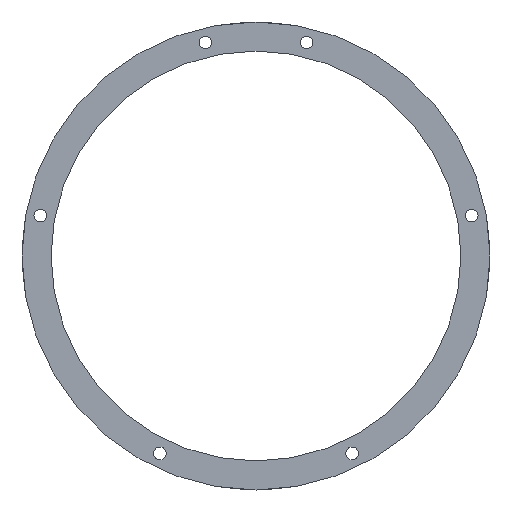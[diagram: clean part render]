
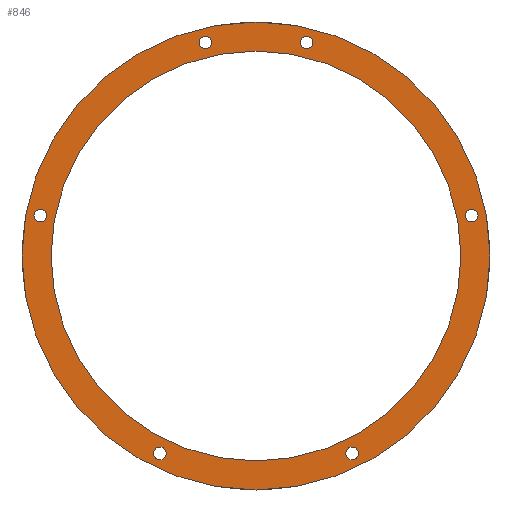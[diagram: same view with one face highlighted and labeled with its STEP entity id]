
A CAD part, left-side view. The second image highlights one B-rep face of the part: STEP entity #846.
In plain terms, the highlighted planar face has unit normal (-1, 0, 0).
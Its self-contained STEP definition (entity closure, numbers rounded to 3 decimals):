
#21 = EDGE_CURVE('',#22,#22,#24,.T.);
#22 = VERTEX_POINT('',#23);
#23 = CARTESIAN_POINT('',(0.,46.25,
    92.5));
#24 = SURFACE_CURVE('',#25,(#30,#42),.PCURVE_S1.);
#25 = CIRCLE('',#26,46.25);
#26 = AXIS2_PLACEMENT_3D('',#27,#28,#29);
#27 = CARTESIAN_POINT('',(0.,46.25,
    46.25));
#28 = DIRECTION('',(1.,0.,0.));
#29 = DIRECTION('',(-0.,0.,1.));
#30 = PCURVE('',#31,#36);
#31 = CYLINDRICAL_SURFACE('',#32,46.25);
#32 = AXIS2_PLACEMENT_3D('',#33,#34,#35);
#33 = CARTESIAN_POINT('',(0.,46.25,
    46.25));
#34 = DIRECTION('',(1.,0.,0.));
#35 = DIRECTION('',(-0.,0.,1.));
#36 = DEFINITIONAL_REPRESENTATION('',(#37),#41);
#37 = LINE('',#38,#39);
#38 = CARTESIAN_POINT('',(0.,0.));
#39 = VECTOR('',#40,1.);
#40 = DIRECTION('',(1.,0.));
#41 = ( GEOMETRIC_REPRESENTATION_CONTEXT(2) 
PARAMETRIC_REPRESENTATION_CONTEXT() REPRESENTATION_CONTEXT('2D SPACE',''
  ) );
#42 = PCURVE('',#43,#48);
#43 = PLANE('',#44);
#44 = AXIS2_PLACEMENT_3D('',#45,#46,#47);
#45 = CARTESIAN_POINT('',(0.,46.25,
    46.25));
#46 = DIRECTION('',(1.,0.,0.));
#47 = DIRECTION('',(-0.,0.,1.));
#48 = DEFINITIONAL_REPRESENTATION('',(#49),#53);
#49 = CIRCLE('',#50,46.25);
#50 = AXIS2_PLACEMENT_2D('',#51,#52);
#51 = CARTESIAN_POINT('',(0.,0.));
#52 = DIRECTION('',(1.,0.));
#53 = ( GEOMETRIC_REPRESENTATION_CONTEXT(2) 
PARAMETRIC_REPRESENTATION_CONTEXT() REPRESENTATION_CONTEXT('2D SPACE',''
  ) );
#846 = ADVANCED_FACE('',(#847,#850,#881,#912,#943,#974,#1005,#1036),#43,
  .F.);
#847 = FACE_BOUND('',#848,.F.);
#848 = EDGE_LOOP('',(#849));
#849 = ORIENTED_EDGE('',*,*,#21,.T.);
#850 = FACE_BOUND('',#851,.F.);
#851 = EDGE_LOOP('',(#852));
#852 = ORIENTED_EDGE('',*,*,#853,.F.);
#853 = EDGE_CURVE('',#854,#854,#856,.T.);
#854 = VERTEX_POINT('',#855);
#855 = CARTESIAN_POINT('',(0.,65.25,
    8.48));
#856 = SURFACE_CURVE('',#857,(#862,#869),.PCURVE_S1.);
#857 = CIRCLE('',#858,1.25);
#858 = AXIS2_PLACEMENT_3D('',#859,#860,#861);
#859 = CARTESIAN_POINT('',(0.,65.25,
    7.23));
#860 = DIRECTION('',(1.,0.,0.));
#861 = DIRECTION('',(-0.,0.,1.));
#862 = PCURVE('',#43,#863);
#863 = DEFINITIONAL_REPRESENTATION('',(#864),#868);
#864 = CIRCLE('',#865,1.25);
#865 = AXIS2_PLACEMENT_2D('',#866,#867);
#866 = CARTESIAN_POINT('',(-39.02,-19.));
#867 = DIRECTION('',(1.,0.));
#868 = ( GEOMETRIC_REPRESENTATION_CONTEXT(2) 
PARAMETRIC_REPRESENTATION_CONTEXT() REPRESENTATION_CONTEXT('2D SPACE',''
  ) );
#869 = PCURVE('',#870,#875);
#870 = CYLINDRICAL_SURFACE('',#871,1.25);
#871 = AXIS2_PLACEMENT_3D('',#872,#873,#874);
#872 = CARTESIAN_POINT('',(-1.,65.25,7.23));
#873 = DIRECTION('',(1.,0.,0.));
#874 = DIRECTION('',(-0.,0.,1.));
#875 = DEFINITIONAL_REPRESENTATION('',(#876),#880);
#876 = LINE('',#877,#878);
#877 = CARTESIAN_POINT('',(0.,1.));
#878 = VECTOR('',#879,1.);
#879 = DIRECTION('',(1.,0.));
#880 = ( GEOMETRIC_REPRESENTATION_CONTEXT(2) 
PARAMETRIC_REPRESENTATION_CONTEXT() REPRESENTATION_CONTEXT('2D SPACE',''
  ) );
#881 = FACE_BOUND('',#882,.F.);
#882 = EDGE_LOOP('',(#883));
#883 = ORIENTED_EDGE('',*,*,#884,.F.);
#884 = EDGE_CURVE('',#885,#885,#887,.T.);
#885 = VERTEX_POINT('',#886);
#886 = CARTESIAN_POINT('',(0.,88.88,
    55.5));
#887 = SURFACE_CURVE('',#888,(#893,#900),.PCURVE_S1.);
#888 = CIRCLE('',#889,1.25);
#889 = AXIS2_PLACEMENT_3D('',#890,#891,#892);
#890 = CARTESIAN_POINT('',(0.,88.88,
    54.25));
#891 = DIRECTION('',(1.,0.,0.));
#892 = DIRECTION('',(-0.,0.,1.));
#893 = PCURVE('',#43,#894);
#894 = DEFINITIONAL_REPRESENTATION('',(#895),#899);
#895 = CIRCLE('',#896,1.25);
#896 = AXIS2_PLACEMENT_2D('',#897,#898);
#897 = CARTESIAN_POINT('',(8.,-42.63));
#898 = DIRECTION('',(1.,0.));
#899 = ( GEOMETRIC_REPRESENTATION_CONTEXT(2) 
PARAMETRIC_REPRESENTATION_CONTEXT() REPRESENTATION_CONTEXT('2D SPACE',''
  ) );
#900 = PCURVE('',#901,#906);
#901 = CYLINDRICAL_SURFACE('',#902,1.25);
#902 = AXIS2_PLACEMENT_3D('',#903,#904,#905);
#903 = CARTESIAN_POINT('',(-1.,88.88,54.25));
#904 = DIRECTION('',(1.,0.,0.));
#905 = DIRECTION('',(-0.,0.,1.));
#906 = DEFINITIONAL_REPRESENTATION('',(#907),#911);
#907 = LINE('',#908,#909);
#908 = CARTESIAN_POINT('',(0.,1.));
#909 = VECTOR('',#910,1.);
#910 = DIRECTION('',(1.,0.));
#911 = ( GEOMETRIC_REPRESENTATION_CONTEXT(2) 
PARAMETRIC_REPRESENTATION_CONTEXT() REPRESENTATION_CONTEXT('2D SPACE',''
  ) );
#912 = FACE_BOUND('',#913,.F.);
#913 = EDGE_LOOP('',(#914));
#914 = ORIENTED_EDGE('',*,*,#915,.F.);
#915 = EDGE_CURVE('',#916,#916,#918,.T.);
#916 = VERTEX_POINT('',#917);
#917 = CARTESIAN_POINT('',(0.,56.25,
    89.7));
#918 = SURFACE_CURVE('',#919,(#924,#931),.PCURVE_S1.);
#919 = CIRCLE('',#920,1.25);
#920 = AXIS2_PLACEMENT_3D('',#921,#922,#923);
#921 = CARTESIAN_POINT('',(0.,56.25,
    88.45));
#922 = DIRECTION('',(1.,0.,0.));
#923 = DIRECTION('',(-0.,0.,1.));
#924 = PCURVE('',#43,#925);
#925 = DEFINITIONAL_REPRESENTATION('',(#926),#930);
#926 = CIRCLE('',#927,1.25);
#927 = AXIS2_PLACEMENT_2D('',#928,#929);
#928 = CARTESIAN_POINT('',(42.2,-10.));
#929 = DIRECTION('',(1.,0.));
#930 = ( GEOMETRIC_REPRESENTATION_CONTEXT(2) 
PARAMETRIC_REPRESENTATION_CONTEXT() REPRESENTATION_CONTEXT('2D SPACE',''
  ) );
#931 = PCURVE('',#932,#937);
#932 = CYLINDRICAL_SURFACE('',#933,1.25);
#933 = AXIS2_PLACEMENT_3D('',#934,#935,#936);
#934 = CARTESIAN_POINT('',(-1.,56.25,88.45));
#935 = DIRECTION('',(1.,0.,0.));
#936 = DIRECTION('',(-0.,0.,1.));
#937 = DEFINITIONAL_REPRESENTATION('',(#938),#942);
#938 = LINE('',#939,#940);
#939 = CARTESIAN_POINT('',(0.,1.));
#940 = VECTOR('',#941,1.);
#941 = DIRECTION('',(1.,0.));
#942 = ( GEOMETRIC_REPRESENTATION_CONTEXT(2) 
PARAMETRIC_REPRESENTATION_CONTEXT() REPRESENTATION_CONTEXT('2D SPACE',''
  ) );
#943 = FACE_BOUND('',#944,.F.);
#944 = EDGE_LOOP('',(#945));
#945 = ORIENTED_EDGE('',*,*,#946,.F.);
#946 = EDGE_CURVE('',#947,#947,#949,.T.);
#947 = VERTEX_POINT('',#948);
#948 = CARTESIAN_POINT('',(0.,27.25,
    8.48));
#949 = SURFACE_CURVE('',#950,(#955,#962),.PCURVE_S1.);
#950 = CIRCLE('',#951,1.25);
#951 = AXIS2_PLACEMENT_3D('',#952,#953,#954);
#952 = CARTESIAN_POINT('',(0.,27.25,
    7.23));
#953 = DIRECTION('',(1.,0.,0.));
#954 = DIRECTION('',(-0.,0.,1.));
#955 = PCURVE('',#43,#956);
#956 = DEFINITIONAL_REPRESENTATION('',(#957),#961);
#957 = CIRCLE('',#958,1.25);
#958 = AXIS2_PLACEMENT_2D('',#959,#960);
#959 = CARTESIAN_POINT('',(-39.02,19.));
#960 = DIRECTION('',(1.,0.));
#961 = ( GEOMETRIC_REPRESENTATION_CONTEXT(2) 
PARAMETRIC_REPRESENTATION_CONTEXT() REPRESENTATION_CONTEXT('2D SPACE',''
  ) );
#962 = PCURVE('',#963,#968);
#963 = CYLINDRICAL_SURFACE('',#964,1.25);
#964 = AXIS2_PLACEMENT_3D('',#965,#966,#967);
#965 = CARTESIAN_POINT('',(-1.,27.25,7.23));
#966 = DIRECTION('',(1.,0.,0.));
#967 = DIRECTION('',(-0.,0.,1.));
#968 = DEFINITIONAL_REPRESENTATION('',(#969),#973);
#969 = LINE('',#970,#971);
#970 = CARTESIAN_POINT('',(0.,1.));
#971 = VECTOR('',#972,1.);
#972 = DIRECTION('',(1.,0.));
#973 = ( GEOMETRIC_REPRESENTATION_CONTEXT(2) 
PARAMETRIC_REPRESENTATION_CONTEXT() REPRESENTATION_CONTEXT('2D SPACE',''
  ) );
#974 = FACE_BOUND('',#975,.F.);
#975 = EDGE_LOOP('',(#976));
#976 = ORIENTED_EDGE('',*,*,#977,.F.);
#977 = EDGE_CURVE('',#978,#978,#980,.T.);
#978 = VERTEX_POINT('',#979);
#979 = CARTESIAN_POINT('',(0.,46.25,
    86.75));
#980 = SURFACE_CURVE('',#981,(#986,#993),.PCURVE_S1.);
#981 = CIRCLE('',#982,40.5);
#982 = AXIS2_PLACEMENT_3D('',#983,#984,#985);
#983 = CARTESIAN_POINT('',(0.,46.25,
    46.25));
#984 = DIRECTION('',(1.,0.,0.));
#985 = DIRECTION('',(-0.,0.,1.));
#986 = PCURVE('',#43,#987);
#987 = DEFINITIONAL_REPRESENTATION('',(#988),#992);
#988 = CIRCLE('',#989,40.5);
#989 = AXIS2_PLACEMENT_2D('',#990,#991);
#990 = CARTESIAN_POINT('',(0.,0.));
#991 = DIRECTION('',(1.,0.));
#992 = ( GEOMETRIC_REPRESENTATION_CONTEXT(2) 
PARAMETRIC_REPRESENTATION_CONTEXT() REPRESENTATION_CONTEXT('2D SPACE',''
  ) );
#993 = PCURVE('',#994,#999);
#994 = CYLINDRICAL_SURFACE('',#995,40.5);
#995 = AXIS2_PLACEMENT_3D('',#996,#997,#998);
#996 = CARTESIAN_POINT('',(-1.,46.25,46.25));
#997 = DIRECTION('',(1.,0.,0.));
#998 = DIRECTION('',(-0.,0.,1.));
#999 = DEFINITIONAL_REPRESENTATION('',(#1000),#1004);
#1000 = LINE('',#1001,#1002);
#1001 = CARTESIAN_POINT('',(0.,1.));
#1002 = VECTOR('',#1003,1.);
#1003 = DIRECTION('',(1.,0.));
#1004 = ( GEOMETRIC_REPRESENTATION_CONTEXT(2) 
PARAMETRIC_REPRESENTATION_CONTEXT() REPRESENTATION_CONTEXT('2D SPACE',''
  ) );
#1005 = FACE_BOUND('',#1006,.F.);
#1006 = EDGE_LOOP('',(#1007));
#1007 = ORIENTED_EDGE('',*,*,#1008,.F.);
#1008 = EDGE_CURVE('',#1009,#1009,#1011,.T.);
#1009 = VERTEX_POINT('',#1010);
#1010 = CARTESIAN_POINT('',(0.,36.25,
    89.7));
#1011 = SURFACE_CURVE('',#1012,(#1017,#1024),.PCURVE_S1.);
#1012 = CIRCLE('',#1013,1.25);
#1013 = AXIS2_PLACEMENT_3D('',#1014,#1015,#1016);
#1014 = CARTESIAN_POINT('',(0.,36.25,
    88.45));
#1015 = DIRECTION('',(1.,0.,0.));
#1016 = DIRECTION('',(-0.,0.,1.));
#1017 = PCURVE('',#43,#1018);
#1018 = DEFINITIONAL_REPRESENTATION('',(#1019),#1023);
#1019 = CIRCLE('',#1020,1.25);
#1020 = AXIS2_PLACEMENT_2D('',#1021,#1022);
#1021 = CARTESIAN_POINT('',(42.2,10.));
#1022 = DIRECTION('',(1.,0.));
#1023 = ( GEOMETRIC_REPRESENTATION_CONTEXT(2) 
PARAMETRIC_REPRESENTATION_CONTEXT() REPRESENTATION_CONTEXT('2D SPACE',''
  ) );
#1024 = PCURVE('',#1025,#1030);
#1025 = CYLINDRICAL_SURFACE('',#1026,1.25);
#1026 = AXIS2_PLACEMENT_3D('',#1027,#1028,#1029);
#1027 = CARTESIAN_POINT('',(-1.,36.25,88.45)
  );
#1028 = DIRECTION('',(1.,0.,0.));
#1029 = DIRECTION('',(-0.,0.,1.));
#1030 = DEFINITIONAL_REPRESENTATION('',(#1031),#1035);
#1031 = LINE('',#1032,#1033);
#1032 = CARTESIAN_POINT('',(0.,1.));
#1033 = VECTOR('',#1034,1.);
#1034 = DIRECTION('',(1.,0.));
#1035 = ( GEOMETRIC_REPRESENTATION_CONTEXT(2) 
PARAMETRIC_REPRESENTATION_CONTEXT() REPRESENTATION_CONTEXT('2D SPACE',''
  ) );
#1036 = FACE_BOUND('',#1037,.F.);
#1037 = EDGE_LOOP('',(#1038));
#1038 = ORIENTED_EDGE('',*,*,#1039,.F.);
#1039 = EDGE_CURVE('',#1040,#1040,#1042,.T.);
#1040 = VERTEX_POINT('',#1041);
#1041 = CARTESIAN_POINT('',(0.,3.62,
    55.5));
#1042 = SURFACE_CURVE('',#1043,(#1048,#1055),.PCURVE_S1.);
#1043 = CIRCLE('',#1044,1.25);
#1044 = AXIS2_PLACEMENT_3D('',#1045,#1046,#1047);
#1045 = CARTESIAN_POINT('',(0.,3.62,
    54.25));
#1046 = DIRECTION('',(1.,0.,0.));
#1047 = DIRECTION('',(-0.,0.,1.));
#1048 = PCURVE('',#43,#1049);
#1049 = DEFINITIONAL_REPRESENTATION('',(#1050),#1054);
#1050 = CIRCLE('',#1051,1.25);
#1051 = AXIS2_PLACEMENT_2D('',#1052,#1053);
#1052 = CARTESIAN_POINT('',(8.,42.63));
#1053 = DIRECTION('',(1.,0.));
#1054 = ( GEOMETRIC_REPRESENTATION_CONTEXT(2) 
PARAMETRIC_REPRESENTATION_CONTEXT() REPRESENTATION_CONTEXT('2D SPACE',''
  ) );
#1055 = PCURVE('',#1056,#1061);
#1056 = CYLINDRICAL_SURFACE('',#1057,1.25);
#1057 = AXIS2_PLACEMENT_3D('',#1058,#1059,#1060);
#1058 = CARTESIAN_POINT('',(-1.,3.62,54.25));
#1059 = DIRECTION('',(1.,0.,0.));
#1060 = DIRECTION('',(-0.,0.,1.));
#1061 = DEFINITIONAL_REPRESENTATION('',(#1062),#1066);
#1062 = LINE('',#1063,#1064);
#1063 = CARTESIAN_POINT('',(0.,1.));
#1064 = VECTOR('',#1065,1.);
#1065 = DIRECTION('',(1.,0.));
#1066 = ( GEOMETRIC_REPRESENTATION_CONTEXT(2) 
PARAMETRIC_REPRESENTATION_CONTEXT() REPRESENTATION_CONTEXT('2D SPACE',''
  ) );
